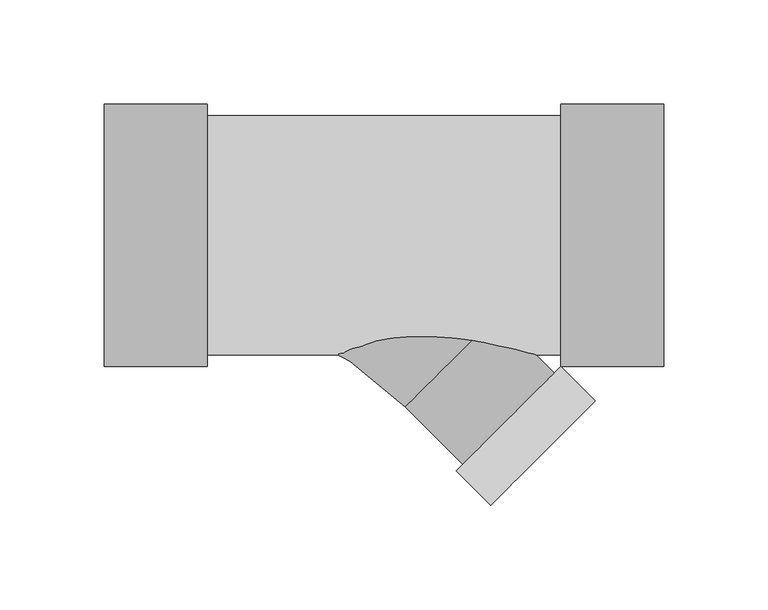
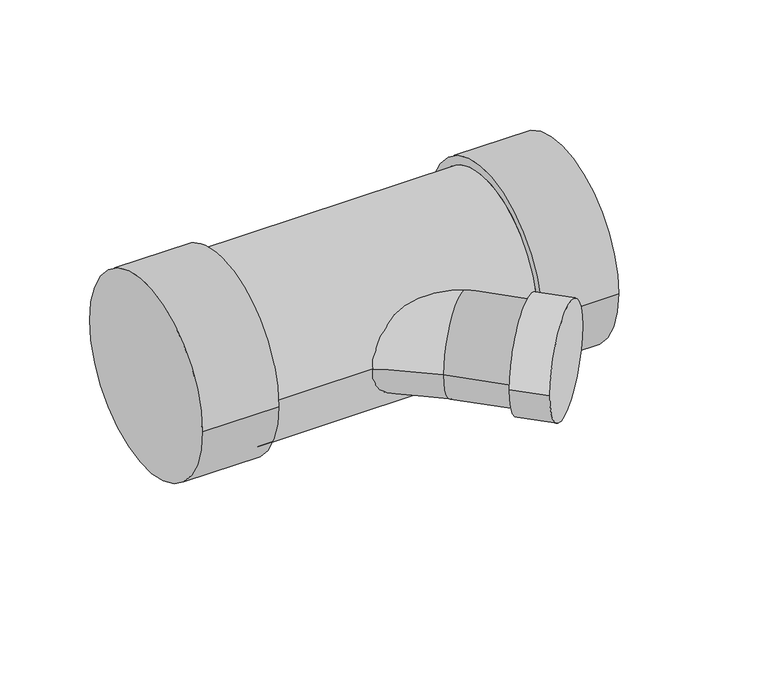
"""IFC4 building model written with IfcOpenShell, lengths in millimetres: pipe fitting geometry, M_Sanitario con te de reducción - PVC - Serie 40 - DWV : Estándar."""

from ifc_helpers import new_model, si_unit, point, frame, origin, place, context, project, spatial, circle_curve, ellipse_curve, trimmed, source, transform, mapped, element, save
from ifc_brep_helpers import plane_surface, cylinder_surface, revolved_surface, advanced_brep


def pipe_fitting_a40889cd(model_context):
    return source(origin(), model_context, "Body", "AdvancedBrep", [
        advanced_brep(
        [(112.9412342, -62.8511094, 0.0), (112.9412342, 62.8511094, 0.0), (112.9412342, -57.3960625, 0.0), (112.9412342, 57.3960625, 0.0), (162.1775467, -62.8511094, 0.0), (162.1775467, 62.8511094, 0.0), (-56.5584022, 57.3960625, 0.0), (-56.5584022, -57.3960625, 0.0), (-105.7947148, -62.8511094, 0.0), (-105.7947147, 62.8511094, 0.0), (-56.5584023, -62.8511094, 0.0), (-56.5584022, 62.8511094, 0.0)],
        [
            (0, 1, circle_curve(frame((112.9412342, 0.0, 0.0), z_axis=(-1.0, 0.0, 0.0), x_axis=(0.0, 1.0, 0.0)), 62.8511094)),
            (1, 0, circle_curve(frame((112.9412342, 0.0, 0.0), z_axis=(-1.0, 0.0, 0.0), x_axis=(0.0, 1.0, 0.0)), 62.8511094)),
            (2, 3, circle_curve(frame((112.9412342, 0.0, 0.0), z_axis=(1.0, 0.0, 0.0), x_axis=(0.0, 0.0, -1.0)), 57.3960625)),
            (3, 2, circle_curve(frame((112.9412342, 0.0, 0.0), z_axis=(1.0, 0.0, 0.0), x_axis=(0.0, 0.0, 1.0)), 57.3960625)),
            (4, 5, circle_curve(frame((162.1775467, 0.0, 0.0), z_axis=(1.0, 0.0, 0.0), x_axis=(0.0, 1.0, 0.0)), 62.8511094)),
            (5, 4, circle_curve(frame((162.1775467, 0.0, 0.0), z_axis=(1.0, 0.0, 0.0), x_axis=(0.0, 1.0, 0.0)), 62.8511094)),
            (0, 4),
            (5, 1),
            (6, 3),
            (2, 7),
            (7, 6, circle_curve(frame((-56.5584023, 0.0, 0.0), z_axis=(1.0, 0.0, 0.0), x_axis=(0.0, 0.0, -1.0)), 57.3960625)),
            (6, 7, circle_curve(frame((-56.5584022, 0.0, 0.0), z_axis=(1.0, 0.0, 0.0), x_axis=(0.0, 0.0, 1.0)), 57.3960625)),
            (8, 9, circle_curve(frame((-105.7947147, 0.0, 0.0), z_axis=(-1.0, 0.0, 0.0), x_axis=(0.0, 1.0, 0.0)), 62.8511094)),
            (9, 8, circle_curve(frame((-105.7947147, 0.0, 0.0), z_axis=(-1.0, 0.0, 0.0), x_axis=(0.0, 1.0, 0.0)), 62.8511094)),
            (10, 11, circle_curve(frame((-56.5584022, 0.0, 0.0), z_axis=(1.0, 0.0, 0.0), x_axis=(0.0, 1.0, 0.0)), 62.8511094)),
            (11, 10, circle_curve(frame((-56.5584022, 0.0, 0.0), z_axis=(1.0, 0.0, 0.0), x_axis=(0.0, 1.0, 0.0)), 62.8511094)),
            (8, 10),
            (11, 9),
        ],
        [
            plane_surface(frame((112.9412342, 0.0, 0.0), z_axis=(-1.0, 0.0, 0.0), x_axis=(0.0, 0.0, 1.0))),
            plane_surface(frame((162.1775467, 0.0, 0.0), z_axis=(1.0, 0.0, 0.0), x_axis=(0.0, 0.0, 1.0))),
            cylinder_surface(frame((112.9412342, 0.0, 0.0), z_axis=(-1.0, 0.0, 0.0), x_axis=(0.0, 1.0, 0.0)), 62.8511094),
            cylinder_surface(frame((-56.5584022, 0.0, 0.0), z_axis=(1.0, 0.0, 0.0), x_axis=(0.0, 0.0, -1.0)), 57.3960625),
            cylinder_surface(frame((-56.5584022, 0.0, 0.0), z_axis=(1.0, 0.0, 0.0), x_axis=(0.0, 0.0, 1.0)), 57.3960625),
            plane_surface(frame((-105.7947147, 0.0, 0.0), z_axis=(-1.0, 0.0, 0.0), x_axis=(0.0, 0.0, 1.0))),
            plane_surface(frame((-56.5584022, 0.0, 0.0), z_axis=(1.0, 0.0, 0.0), x_axis=(0.0, 0.0, 1.0))),
            cylinder_surface(frame((-105.7947147, 0.0, 0.0), z_axis=(-1.0, 0.0, 0.0), x_axis=(0.0, 1.0, 0.0)), 62.8511094),
        ],
        [
            (0, [[1, 2], [3, 4]]),
            (1, [[5, 6]]),
            (2, [[-1, 7, -6, 8]]),
            (2, [[-2, -8, -5, -7]]),
            (3, [[9, -3, 10, 11]]),
            (4, [[-9, 12, -10, -4]]),
            (5, [[13, 14]]),
            (6, [[15, 16], [-11, -12]]),
            (7, [[-13, 17, -16, 18]]),
            (7, [[-14, -18, -15, -17]]),
        ],
    ),
        advanced_brep(
        [(129.4368365, -79.346723, 0.0), (79.3466346, -129.4368907, 0.0), (60.3781701, -60.3782114, 30.9800625), (38.4719504, -82.2844162, 0.0), (65.9899134, -109.802398, 0.0), (109.802353, -65.9899885, 0.0), (82.2843899, -38.4720066, 0.0), (60.3781701, -60.3782114, -30.9800625), (-85.3876562, -30.9800625, 0.0), (-85.3876562, 30.9800625, 0.0), (112.9412342, -62.8511094, 0.0), (62.8510322, -112.9412771, 0.0)],
        [
            (0, 1, circle_curve(frame((104.3917355, -104.3918068, 0.0), z_axis=(0.7071065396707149, -0.7071070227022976, 0.0), x_axis=(-0.7071070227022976, -0.7071065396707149, 0.0)), 35.4191094)),
            (1, 0, circle_curve(frame((104.3917355, -104.3918068, 0.0), z_axis=(0.7071065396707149, -0.7071070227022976, 0.0), x_axis=(-0.7071070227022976, -0.7071065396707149, 0.0)), 35.4191094)),
            (2, 3, circle_curve(frame((60.3781701, -60.3782114, 0.0), z_axis=(0.7071065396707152, -0.7071070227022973, 0.0), x_axis=(0.7071070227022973, 0.7071065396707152, 0.0)), 30.9800625)),
            (3, 4),
            (4, 5, circle_curve(frame((87.8961332, -87.8961932, 0.0), z_axis=(-0.7071065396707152, 0.7071070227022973, 0.0), x_axis=(0.7071070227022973, 0.7071065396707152, 0.0)), 30.9800625)),
            (5, 6),
            (6, 2, circle_curve(frame((60.3781701, -60.3782114, 0.0), z_axis=(0.7071065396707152, -0.7071070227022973, 0.0), x_axis=(0.7071070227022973, 0.7071065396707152, 0.0)), 30.9800625)),
            (3, 7, circle_curve(frame((60.3781701, -60.3782114, 0.0), z_axis=(0.7071065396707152, -0.7071070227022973, 0.0), x_axis=(0.7071070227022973, 0.7071065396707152, 0.0)), 30.9800625)),
            (7, 6, circle_curve(frame((60.3781701, -60.3782114, 0.0), z_axis=(0.7071065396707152, -0.7071070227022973, 0.0), x_axis=(0.7071070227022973, 0.7071065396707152, 0.0)), 30.9800625)),
            (5, 4, circle_curve(frame((87.8961332, -87.8961932, 0.0), z_axis=(-0.7071065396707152, 0.7071070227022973, 0.0), x_axis=(0.7071070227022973, 0.7071065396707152, 0.0)), 30.9800625)),
            (8, 9, circle_curve(frame((-85.3876562, 0.0, 0.0), z_axis=(-1.0, 0.0, 0.0), x_axis=(0.0, 1.0, 0.0)), 30.9800625)),
            (9, 8, circle_curve(frame((-85.3876562, 0.0, 0.0), z_axis=(-1.0, 0.0, 0.0), x_axis=(0.0, 1.0, 0.0)), 30.9800625)),
            (8, 3, circle_curve(frame((-85.3876562, -206.1439382, 0.0), z_axis=(0.0, 0.0, -1.0), x_axis=(0.0, 1.0, 0.0)), 175.1638757)),
            (6, 9, circle_curve(frame((-85.3876562, -206.1439382, 0.0), z_axis=(0.0, 0.0, 1.0), x_axis=(0.0, 1.0, 0.0)), 237.1240007)),
            (10, 11, circle_curve(frame((87.8961332, -87.8961932, 0.0), z_axis=(-0.7071065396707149, 0.7071070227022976, 0.0), x_axis=(-0.7071070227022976, -0.7071065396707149, 0.0)), 35.4191094)),
            (11, 10, circle_curve(frame((87.8961332, -87.8961932, 0.0), z_axis=(-0.7071065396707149, 0.7071070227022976, 0.0), x_axis=(-0.7071070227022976, -0.7071065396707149, 0.0)), 35.4191094)),
            (0, 10),
            (11, 1),
        ],
        [
            plane_surface(frame((104.3917355, -104.3918068, 0.0), z_axis=(0.7071065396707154, -0.7071070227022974, 0.0), x_axis=(0.0, 0.0, 1.0))),
            cylinder_surface(frame((60.3781701, -60.3782114, 0.0), z_axis=(-0.7071065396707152, 0.7071070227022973, 0.0), x_axis=(0.7071070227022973, 0.7071065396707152, 0.0)), 30.9800625),
            plane_surface(frame((-85.3876562, 0.0, 0.0), z_axis=(-1.0, 0.0, 0.0), x_axis=(0.0, 0.0, 1.0))),
            revolved_surface(trimmed(ellipse_curve(frame((-85.3876562, 0.0, 0.0), z_axis=(-1.0, 0.0, 0.0), x_axis=(0.0, 1.0, 0.0)), 30.9800625, 30.9800625), [point((-85.3876562, -30.9800625, 0.0))], [point((-85.3876562, 30.9800625, 0.0))], True, "CARTESIAN"), (-85.3876562, -206.1439382, 0.0), (0.0, 0.0, -1.0)),
            revolved_surface(trimmed(ellipse_curve(frame((-85.3876562, 0.0, 0.0), z_axis=(-1.0, 0.0, 0.0), x_axis=(0.0, 1.0, 0.0)), 30.9800625, 30.9800625), [point((-85.3876562, 30.9800625, 0.0))], [point((-85.3876562, -30.9800625, 0.0))], True, "CARTESIAN"), (-85.3876562, -206.1439382, 0.0), (0.0, 0.0, -1.0)),
            plane_surface(frame((87.8961332, -87.8961932, 0.0), z_axis=(-0.7071065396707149, 0.7071070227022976, 0.0), x_axis=(0.0, 0.0, 1.0))),
            cylinder_surface(frame((104.3917355, -104.3918068, 0.0), z_axis=(0.7071065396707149, -0.7071070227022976, 0.0), x_axis=(-0.7071070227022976, -0.7071065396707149, 0.0)), 35.4191094),
        ],
        [
            (0, [[1, 2]]),
            (1, [[3, 4, 5, 6, 7]]),
            (1, [[8, 9, -6, 10, -4]]),
            (2, [[11, 12]]),
            (3, [[-11, 13, -3, -7, 14]]),
            (4, [[-12, -14, -9, -8, -13]]),
            (5, [[15, 16], [-5, -10]]),
            (6, [[-1, 17, -16, 18]]),
            (6, [[-2, -18, -15, -17]]),
        ],
    ),
    ])


if __name__ == "__main__":
    model = new_model("IFC4")
    model_context = context("Model", 3, world=origin())
    ifc_project = project(units=[si_unit("LENGTHUNIT", "METRE", prefix="MILLI")], contexts=[model_context])
    site = spatial("IfcSite", under=ifc_project)
    building = spatial("IfcBuilding", under=site)
    placement = place(None, origin())
    pipe_fitting_shape = pipe_fitting_a40889cd(model_context)
    element("IfcPipeFitting", 1, ObjectType="M_Sanitario con te de reducción - PVC - Serie 40 - DWV : Estándar", at=placement, inside=building, context=model_context, shape_type="MappedRepresentation", body=[
        mapped(pipe_fitting_shape, transform((0.0, 0.0, 0.0), x_axis=(1.0, 0.0, 0.0), y_axis=(0.0, 1.0, 0.0), z_axis=(0.0, 0.0, 1.0))),
    ])
    save(model, "model.ifc")
